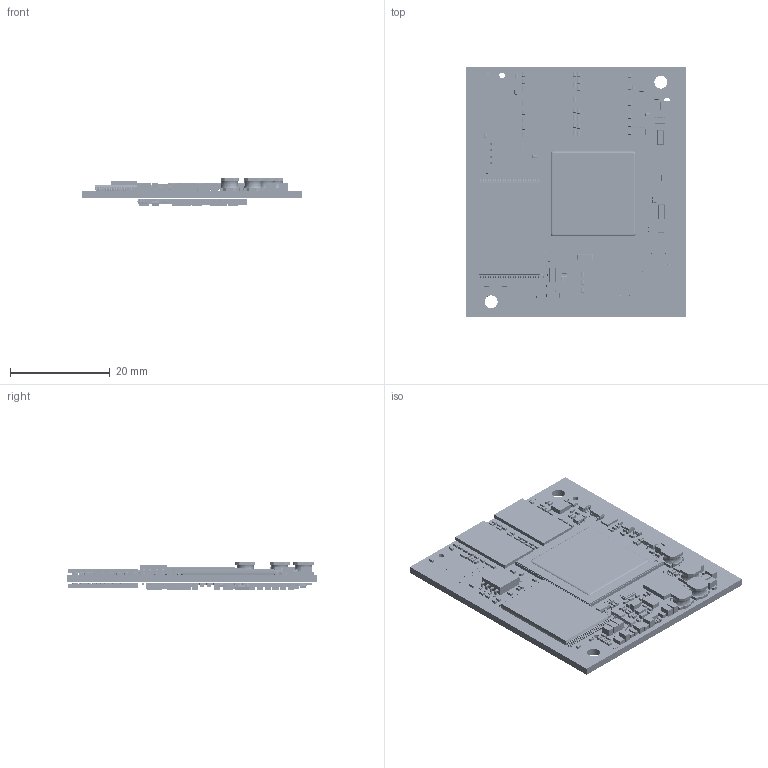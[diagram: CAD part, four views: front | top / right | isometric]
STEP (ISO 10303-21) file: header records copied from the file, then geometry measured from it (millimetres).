
FILE_DESCRIPTION(('STEP AP214'),'1');
FILE_NAME('Board1_BoardAndModels.step','2025-06-05T13:32:39',(' '),(' '),'Spatial InterOp 3D','XD3DPlugin XRACreate',' ');
FILE_SCHEMA(('automotive_design'));
Length unit declared in the file: millimetre
Products named in the file (168): Submodel-N:\GROUP\DEVELOP\HARDWARE\PCL-058 phyCORE-i.MX6 DSC\Design\1429.5b-DSC\001\PCL-058\Board1_PCB\Layout\3D\Input_S\RCC-0402-1000F.xtd; RCC-0402-1000F; Submodel-RES802_part_simplified_0402-C3; DesignRootModel; Submodel-N:\GROUP\DEVELOP\HARDWARE\PCL-058 phyCORE-i.MX6 DSC\Design\1429.5b-DSC\001\PCL-058\Board1_PCB\Layout\3D\Input_S\GRM155R71C224KA12D.xtd; GRM155R71C224KA12D; Submodel-CAP1363_part_simplified_0402-C3; Submodel-N:\GROUP\DEVELOP\HARDWARE\PCL-058 phyCORE-i.MX6 DSC\Design\1429.5b-DSC\001\PCL-058\Board1_PCB\Layout\3D\Input_S\GMC21X7R474K25NT.xtd; GMC21X7R474K25NT; Submodel-CAP982_part_simplified_0805-height1_comma_5mm; Submodel-RES2002_part_simplified_0402-C3; Submodel-N:\GROUP\DEVELOP\HARDWARE\PCL-058 phyCORE-i.MX6 DSC\Design\1429.5b-DSC\001\PCL-058\Board1_PCB\Layout\3D\Input_S\VFBGA153_11P5X13_MRN.xtd; VFBGA153_11P5X13_MRN; Submodel-FLASH153_part_simplified_BGA153-50-AC3; Submodel-N:\GROUP\DEVELOP\HARDWARE\PCL-058 phyCORE-i.MX6 DSC\Design\1429.5b-DSC\001\PCL-058\Board1_PCB\Layout\3D\Input_S\GMC10X7R104K100NT.xtd; GMC10X7R104K100NT; Submodel-CAP1102_part_simplified_0603-C3; Submodel-RES2912_part_simplified_0402-C3; Submodel-N:\GROUP\DEVELOP\HARDWARE\PCL-058 phyCORE-i.MX6 DSC\Design\1429.5b-DSC\001\PCL-058\Board1_PCB\Layout\3D\Input_S\GRM155R71C104KA88D.xtd; GRM155R71C104KA88D; Submodel-CAP722_part_simplified_0402-C3; Submodel-N:\GROUP\DEVELOP\HARDWARE\PCL-058 phyCORE-i.MX6 DSC\Design\1429.5b-DSC\001\PCL-058\Board1_PCB\Layout\3D\Input_S\MC0.1W08051200K_0.xtd; MC0.1W08051200K_0; Submodel-RES462_part_simplified_0805-C3; Submodel-N:\GROUP\DEVELOP\HARDWARE\PCL-058 phyCORE-i.MX6 DSC\Design\1429.5b-DSC\001\PCL-058\Board1_PCB\Layout\3D\Input_S\xd_sot23_7.xtd; xd_sot23_7; Submodel-TRANSISTOR152_part_simplified_SOT23-FET-C3; Submodel-RES5203_part_simplified_0402; Submodel-RES1982_part_simplified_0402-C3; Submodel-N:\GROUP\DEVELOP\HARDWARE\PCL-058 phyCORE-i.MX6 DSC\Design\1429.5b-DSC\001\PCL-058\Board1_PCB\Layout\3D\Input_S\REMOVE_CONN2292.xtd; REMOVE_CONN2292; Submodel-CONN2292_part_simplified_Testpunkt-1mm; Submodel-RES2332_part_simplified_0402-C3; Submodel-N:\GROUP\DEVELOP\HARDWARE\PCL-058 phyCORE-i.MX6 DSC\Design\1429.5b-DSC\001\PCL-058\Board1_PCB\Layout\3D\Input_S\xd_sc70-6_1.xtd; xd_sc70-6_1; Submodel-LOGIC623_part_simplified_SO6-50-65-C3; Submodel-N:\GROUP\DEVELOP\HARDWARE\PCL-058 phyCORE-i.MX6 DSC\Design\1429.5b-DSC\001\PCL-058\Board1_PCB\Layout\3D\Input_S\IND1233.xtd; IND1233; Submodel-IND1233_part_simplified_L-LVF404026N; Submodel-N:\GROUP\DEVELOP\HARDWARE\PCL-058 phyCORE-i.MX6 DSC\Design\1429.5b-DSC\001\PCL-058\Board1_PCB\Layout\3D\Input_S\JUMP32.xtd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
Assembly tree (663 placements, depth 5):
  Board1_BoardAndModels
    DesignRootModel
      Submodel-RES802_part_simplified_0402-C3  x28
        Submodel-N:\GROUP\DEVELOP\HARDWARE\PCL-058 phyCORE-i.MX6 DSC\Design\1429.5b-DSC\001\PCL-058\Board1_PCB\Layout\3D\Input_S\RCC-0402-1000F.xtd
          RCC-0402-1000F
      Submodel-CAP1363_part_simplified_0402-C3  x63
        Submodel-N:\GROUP\DEVELOP\HARDWARE\PCL-058 phyCORE-i.MX6 DSC\Design\1429.5b-DSC\001\PCL-058\Board1_PCB\Layout\3D\Input_S\GRM155R71C224KA12D.xtd
          GRM155R71C224KA12D
      Submodel-CAP982_part_simplified_0805-height1_comma_5mm  x25
        Submodel-N:\GROUP\DEVELOP\HARDWARE\PCL-058 phyCORE-i.MX6 DSC\Design\1429.5b-DSC\001\PCL-058\Board1_PCB\Layout\3D\Input_S\GMC21X7R474K25NT.xtd
          GMC21X7R474K25NT
      Submodel-RES2002_part_simplified_0402-C3  x4
        Submodel-N:\GROUP\DEVELOP\HARDWARE\PCL-058 phyCORE-i.MX6 DSC\Design\1429.5b-DSC\001\PCL-058\Board1_PCB\Layout\3D\Input_S\RCC-0402-1000F.xtd
          RCC-0402-1000F
      Submodel-FLASH153_part_simplified_BGA153-50-AC3
        Submodel-N:\GROUP\DEVELOP\HARDWARE\PCL-058 phyCORE-i.MX6 DSC\Design\1429.5b-DSC\001\PCL-058\Board1_PCB\Layout\3D\Input_S\VFBGA153_11P5X13_MRN.xtd
          VFBGA153_11P5X13_MRN
      Submodel-CAP1102_part_simplified_0603-C3  x20
        Submodel-N:\GROUP\DEVELOP\HARDWARE\PCL-058 phyCORE-i.MX6 DSC\Design\1429.5b-DSC\001\PCL-058\Board1_PCB\Layout\3D\Input_S\GMC10X7R104K100NT.xtd
          GMC10X7R104K100NT
      Submodel-RES2912_part_simplified_0402-C3  x5
        Submodel-N:\GROUP\DEVELOP\HARDWARE\PCL-058 phyCORE-i.MX6 DSC\Design\1429.5b-DSC\001\PCL-058\Board1_PCB\Layout\3D\Input_S\RCC-0402-1000F.xtd
          RCC-0402-1000F
      Submodel-CAP722_part_simplified_0402-C3  x165
        Submodel-N:\GROUP\DEVELOP\HARDWARE\PCL-058 phyCORE-i.MX6 DSC\Design\1429.5b-DSC\001\PCL-058\Board1_PCB\Layout\3D\Input_S\GRM155R71C104KA88D.xtd
          GRM155R71C104KA88D
      Submodel-RES462_part_simplified_0805-C3  x6
        Submodel-N:\GROUP\DEVELOP\HARDWARE\PCL-058 phyCORE-i.MX6 DSC\Design\1429.5b-DSC\001\PCL-058\Board1_PCB\Layout\3D\Input_S\MC0.1W08051200K_0.xtd
          MC0.1W08051200K_0
      Submodel-TRANSISTOR152_part_simplified_SOT23-FET-C3  x2
        Submodel-N:\GROUP\DEVELOP\HARDWARE\PCL-058 phyCORE-i.MX6 DSC\Design\1429.5b-DSC\001\PCL-058\Board1_PCB\Layout\3D\Input_S\xd_sot23_7.xtd
          xd_sot23_7
      Submodel-RES5203_part_simplified_0402
        Submodel-N:\GROUP\DEVELOP\HARDWARE\PCL-058 phyCORE-i.MX6 DSC\Design\1429.5b-DSC\001\PCL-058\Board1_PCB\Layout\3D\Input_S\RCC-0402-1000F.xtd
          RCC-0402-1000F
      Submodel-RES1982_part_simplified_0402-C3  x67
        Submodel-N:\GROUP\DEVELOP\HARDWARE\PCL-058 phyCORE-i.MX6 DSC\Design\1429.5b-DSC\001\PCL-058\Board1_PCB\Layout\3D\Input_S\RCC-0402-1000F.xtd
          RCC-0402-1000F
      Submodel-CONN2292_part_simplified_Testpunkt-1mm  x11
        Submodel-N:\GROUP\DEVELOP\HARDWARE\PCL-058 phyCORE-i.MX6 DSC\Design\1429.5b-DSC\001\PCL-058\Board1_PCB\Layout\3D\Input_S\REMOVE_CONN2292.xtd
          REMOVE_CONN2292
      Submodel-RES2332_part_simplified_0402-C3
        Submodel-N:\GROUP\DEVELOP\HARDWARE\PCL-058 phyCORE-i.MX6 DSC\Design\1429.5b-DSC\001\PCL-058\Board1_PCB\Layout\3D\Input_S\RCC-0402-1000F.xtd
          RCC-0402-1000F
      Submodel-LOGIC623_part_simplified_SO6-50-65-C3
        Submodel-N:\GROUP\DEVELOP\HARDWARE\PCL-058 phyCORE-i.MX6 DSC\Design\1429.5b-DSC\001\PCL-058\Board1_PCB\Layout\3D\Input_S\xd_sc70-6_1.xtd
          xd_sc70-6_1
      Submodel-IND1233_part_simplified_L-LVF404026N  x4
        Submodel-N:\GROUP\DEVELOP\HARDWARE\PCL-058 phyCORE-i.MX6 DSC\Design\1429.5b-DSC\001\PCL-058\Board1_PCB\Layout\3D\Input_S\IND1233.xtd
          IND1233
      Submodel-JUMP32_part_simplified_J1X3-0402-C3  x4
        Submodel-N:\GROUP\DEVELOP\HARDWARE\PCL-058 phyCORE-i.MX6 DSC\Design\1429.5b-DSC\001\PCL-058\Board1_PCB\Layout\3D\Input_S\JUMP32.xtd
          JUMP32
      Submodel-MECH1053_part_simplified_DMC-4mm-Laser  x2
        Submodel-N:\GROUP\DEVELOP\HARDWARE\PCL-058 phyCORE-i.MX6 DSC\Design\1429.5b-DSC\001\PCL-058\Board1_PCB\Layout\3D\Input_S\qr_4mm-QR Code 4mm.xtd
          qr_4mm-QR Code 4mm
      Submodel-RES2212_part_simplified_0402-C3
        Submodel-N:\GROUP\DEVELOP\HARDWARE\PCL-058 phyCORE-i.MX6 DSC\Design\1429.5b-DSC\001\PCL-058\Board1_PCB\Layout\3D\Input_S\RCC-0402-1000F.xtd
          RCC-0402-1000F
      Submodel-FLASH73_part_simplified_TSOP48-50-C3
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Bounding box: 44 x 50 x 5.62 mm (x, y, z)
Volume: 4974.7 mm3; surface area: 12689.4 mm2
Topology: 1256 solids, 1328 shells, 18492 faces, 45467 edges, 27258 vertices
Faces by surface type: plane 9272, cylinder 5882, sphere 3241, torus 60, bspline 37
Full cylindrical faces by diameter (mm): 0.16 x1, 0.58 x1, 0.925 x1, 1.1 x3, 2.6 x2
Entity records: 205001 total; most frequent: CARTESIAN_POINT 25670, DIRECTION 25592, ORIENTED_EDGE 21868, EDGE_CURVE 10970, AXIS2_PLACEMENT_3D 9211, PRESENTATION_STYLE_ASSIGNMENT 9119, COLOUR_RGB 9119, STYLED_ITEM 8238
